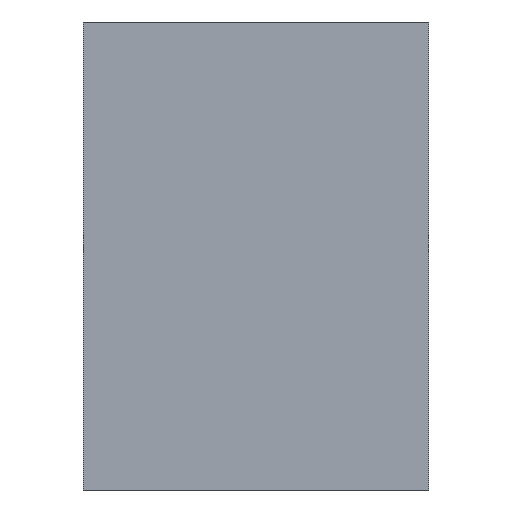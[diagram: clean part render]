
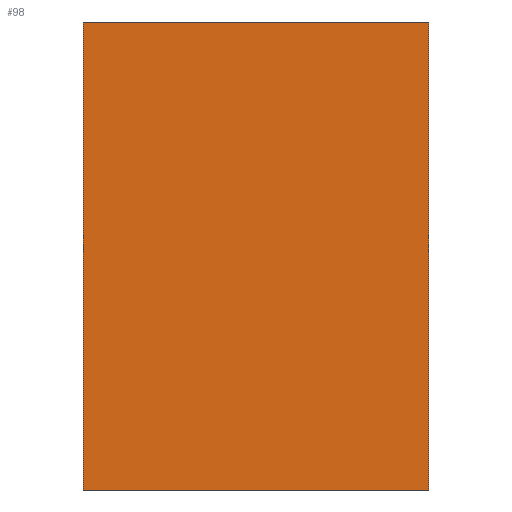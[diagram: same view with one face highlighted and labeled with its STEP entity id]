
A CAD part, front view. The second image highlights one B-rep face of the part: STEP entity #98.
In plain terms, the highlighted planar face has unit normal (0, -1, 0).
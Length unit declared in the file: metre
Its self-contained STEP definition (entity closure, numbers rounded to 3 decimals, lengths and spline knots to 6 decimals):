
#12=ORIENTED_EDGE('',*,*,#36,.F.);
#13=ORIENTED_EDGE('',*,*,#37,.F.);
#14=ORIENTED_EDGE('',*,*,#38,.T.);
#15=ORIENTED_EDGE('',*,*,#39,.T.);
#36=EDGE_CURVE('',#48,#49,#56,.T.);
#37=EDGE_CURVE('',#50,#48,#57,.T.);
#38=EDGE_CURVE('',#50,#51,#58,.T.);
#39=EDGE_CURVE('',#51,#49,#59,.T.);
#48=VERTEX_POINT('',#152);
#49=VERTEX_POINT('',#153);
#50=VERTEX_POINT('',#155);
#51=VERTEX_POINT('',#157);
#56=LINE('',#151,#68);
#57=LINE('',#154,#69);
#58=LINE('',#156,#70);
#59=LINE('',#158,#71);
#68=VECTOR('',#127,1.);
#69=VECTOR('',#128,1.);
#70=VECTOR('',#129,1.);
#71=VECTOR('',#130,1.);
#80=EDGE_LOOP('',(#12,#13,#14,#15));
#86=FACE_BOUND('',#80,.T.);
#92=PLANE('',#117);
#98=ADVANCED_FACE('',(#86),#92,.T.);
#117=AXIS2_PLACEMENT_3D('',#150,#125,#126);
#125=DIRECTION('',(0.,-1.,0.));
#126=DIRECTION('',(0.,0.,-1.));
#127=DIRECTION('',(-1.,0.,0.));
#128=DIRECTION('',(0.,0.,-1.));
#129=DIRECTION('',(-1.,0.,0.));
#130=DIRECTION('',(0.,0.,-1.));
#150=CARTESIAN_POINT('',(0.,-0.098933,0.094996));
#151=CARTESIAN_POINT('',(0.,-0.098933,0.));
#152=CARTESIAN_POINT('',(0.035052,-0.098933,0.));
#153=CARTESIAN_POINT('',(-0.035052,-0.098933,0.));
#154=CARTESIAN_POINT('',(0.035052,-0.098933,0.094996));
#155=CARTESIAN_POINT('',(0.035052,-0.098933,0.094996));
#156=CARTESIAN_POINT('',(0.,-0.098933,0.094996));
#157=CARTESIAN_POINT('',(-0.035052,-0.098933,0.094996));
#158=CARTESIAN_POINT('',(-0.035052,-0.098933,0.094996));
